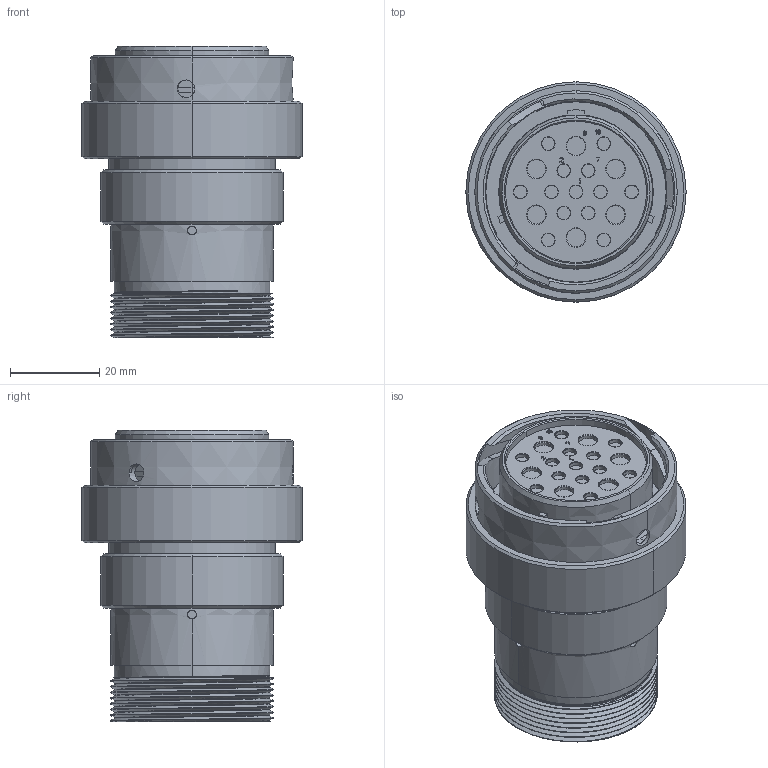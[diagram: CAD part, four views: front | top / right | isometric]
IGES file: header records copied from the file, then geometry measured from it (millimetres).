
Start section:  PTC IGES file: c-hd36-24-19se-072-99-3d.igs
Global section: file name: c-hd36-24-19se-072-99-3d.igs; native system: Pro/ENGINEER by Parametric Technology Corporation; preprocessor: 2011490; author: workeradm; organization: Unknown; units: millimetre
Bounding box: 49.33 x 49.33 x 65.28 mm (x, y, z)
Surface area: 20003.7 mm2 (no closed solid volume)
Topology: 0 solids, 0 shells, 637 faces, 3072 edges, 3072 vertices
Faces by surface type: bspline 321, revolution 310, extrusion 6
